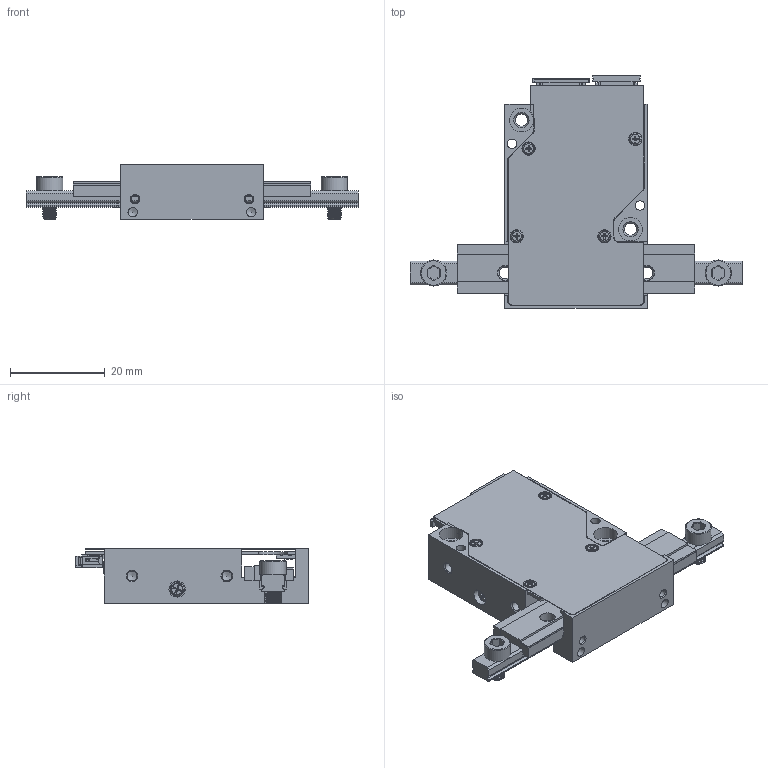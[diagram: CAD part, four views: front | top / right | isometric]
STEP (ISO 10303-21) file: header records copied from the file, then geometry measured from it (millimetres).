
FILE_DESCRIPTION(/* description */ (''),/* implementation_level */ '2;1');
FILE_NAME(/* name */ 'XLA_10_70_assy_A2.stp',/* time_stamp */ '2024-02-28T11:14:35+01:00',/* author */ (''),/* organization */ (''),/* preprocessor_version */ 'ST-DEVELOPER v16',/* originating_system */ 'SIEMENS PLM Software NX 10.0',/* authorisation */ '');
FILE_SCHEMA (('AUTOMOTIVE_DESIGN { 1 0 10303 214 3 1 1 1 }'));
Length unit declared in the file: millimetre
Products named in the file (18): encoder; 522070460_stp; 527451297_Gold; linear_encoder_50; magnet_limit; Bout_M3_L6; ceramic_ruler_W3_T2_L50; XLA_10_tractielat_FR4_50_C; rail_70; PACK-SMIB1.6-3_stp; XLA_10_cover_A; CSPPN1P-ST3W-M2-6_214_step; CBSTSE2.6-3_stp; carriage; XLA_10_body_A2; XLA_10_top_PCB_V2; XLA_10_tractielat_assy_70_1C; XLA_10_70_assy_A2
Assembly tree (24 placements, depth 3):
  XLA_10_70_assy_A2
    XLA_10_body_A2
    carriage
    XLA_10_tractielat_assy_70_1C
      rail_70
      XLA_10_tractielat_FR4_50_C
      ceramic_ruler_W3_T2_L50
      Bout_M3_L6  x2
      magnet_limit  x2
      linear_encoder_50
    CBSTSE2.6-3_stp  x2
    CSPPN1P-ST3W-M2-6_214_step  x2
    XLA_10_cover_A
    XLA_10_top_PCB_V2
      527451297_Gold
      522070460_stp
      encoder
    PACK-SMIB1.6-3_stp  x4
Bounding box: 70 x 49.1 x 11.5 mm (x, y, z)
Volume: 14175.2 mm3; surface area: 16390.4 mm2
Topology: 33 solids, 33 shells, 1568 faces, 4314 edges, 2828 vertices
Faces by surface type: plane 1119, cylinder 325, cone 81, torus 32, bspline 10, sphere 1
Full cylindrical faces by diameter (mm): 0.7 x2, 1 x20, 1.25 x4, 1.6 x8, 1.8 x4, 2 x4, 2.05 x2, 2.113 x2, 2.4 x5, 2.459 x5, 2.6 x4, 2.8 x4, 3.2 x3, 3.4 x1, 3.6 x2, 4 x1, 5 x4, 5.5 x2, 6 x2, 6.4 x2, 7 x1
Entity records: 47844 total; most frequent: CARTESIAN_POINT 11530, ORIENTED_EDGE 7328, DIRECTION 7009, EDGE_CURVE 3664, LINE 3007, VECTOR 3007, VERTEX_POINT 2488, AXIS2_PLACEMENT_3D 2001
